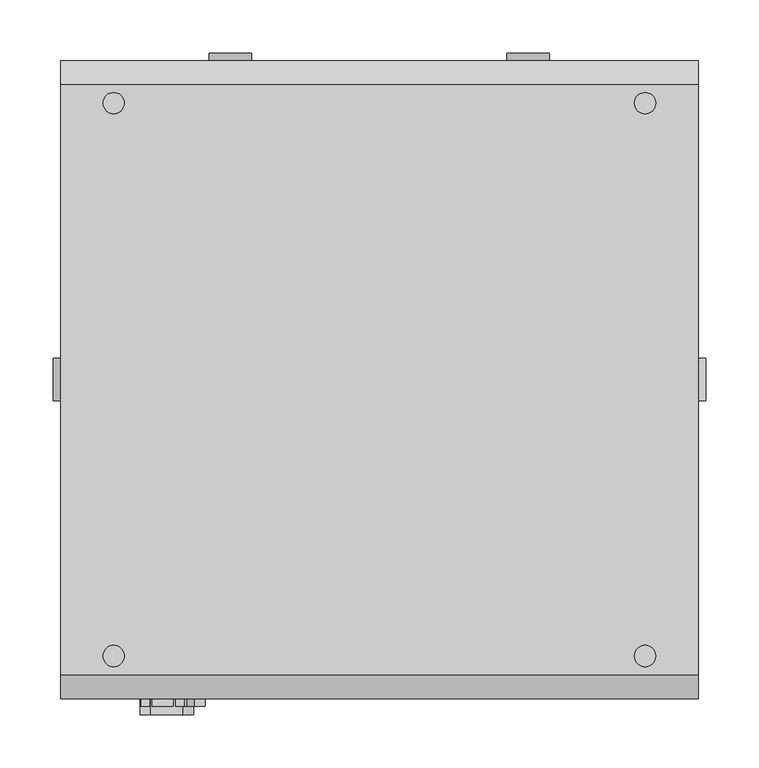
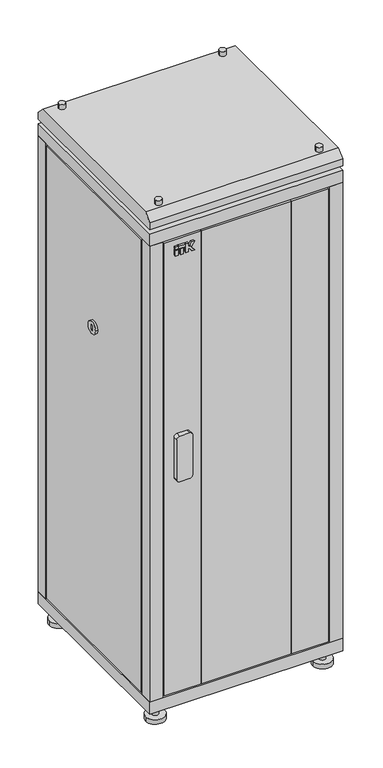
"""IFC4 building model written with IfcOpenShell, lengths in millimetres: proxy geometry, Шкафы ITK серия N_05 : LN05-33U66-G."""

import ifcopenshell
import ifcopenshell.guid

model = None  # the IFC model being written
_history = None  # IfcOwnerHistory: only IFC2X3 demands one
_inside = {}  # id of a spatial element -> (the spatial element, [elements in it])
_under = {}  # id of a project, library or spatial element -> (it, [spatial elements below it])
_declared = {}  # id of a project -> (the project, [libraries it declares])
_typed = {}  # id of a type object -> (the type object, [elements of that type])
_made_of = {}  # id of a material, layer set ... -> (it, [elements and type objects made of it])


def new_model(schema):
    """Start an empty IFC model of exactly this schema.

    Asked for "IFC4X3", IfcOpenShell would pick the latest addendum, in which some entities
    have other attributes; the version numbers below select the first issue.
    IFC2X3 requires an IfcOwnerHistory on every rooted entity: one is made here for all.
    """
    global model, _history
    if schema == "IFC4X3":
        model = ifcopenshell.file(schema_version=(4, 3, 0, 0))
    else:
        model = ifcopenshell.file(schema=schema)
    _inside.clear()
    _under.clear()
    _declared.clear()
    _typed.clear()
    _made_of.clear()
    _history = None
    if model.schema == "IFC2X3":
        org = make("IfcOrganization", Name="unknown")
        user = make(
            "IfcPersonAndOrganization",
            ThePerson=make("IfcPerson", FamilyName="unknown"),
            TheOrganization=org,
        )
        app = make(
            "IfcApplication",
            ApplicationDeveloper=org,
            Version="unknown",
            ApplicationFullName="unknown",
            ApplicationIdentifier="unknown",
        )
        _history = make(
            "IfcOwnerHistory",
            OwningUser=user,
            OwningApplication=app,
            ChangeAction="ADDED",
            CreationDate=0,
        )
    return model


def make(cls, **values):
    """One entity of the class cls with the attributes given. An attribute that is None is left unset."""
    return model.create_entity(
        cls, **{name: value for name, value in values.items() if value is not None}
    )


def rooted(cls, **values):
    """An entity with a GlobalId (a new one), such as an element, a storey or a relation."""
    return make(cls, GlobalId=ifcopenshell.guid.new(), OwnerHistory=_history, **values)


def si_unit(unit_type, name, prefix=None):
    """IfcSIUnit, for example si_unit("LENGTHUNIT", "METRE", prefix="MILLI")."""
    return make("IfcSIUnit", UnitType=unit_type, Prefix=prefix, Name=name)


def assignment(units):
    """IfcUnitAssignment: the units of a project."""
    return None if units is None else make("IfcUnitAssignment", Units=units)


def point(xyz):
    """IfcCartesianPoint."""
    return None if xyz is None else make("IfcCartesianPoint", Coordinates=xyz)


def direction(xyz):
    """IfcDirection."""
    return None if xyz is None else make("IfcDirection", DirectionRatios=xyz)


def frame(location, z_axis=None, x_axis=None):
    """IfcAxis2Placement3D, a coordinate frame: its origin and axes. An axis left out is left unset."""
    return make(
        "IfcAxis2Placement3D",
        Location=point(location),
        Axis=direction(z_axis),
        RefDirection=direction(x_axis),
    )


def frame_2d(location, x_axis=None):
    """IfcAxis2Placement2D, a coordinate frame in the plane: its origin and x axis."""
    return make(
        "IfcAxis2Placement2D", Location=point(location), RefDirection=direction(x_axis)
    )


def origin():
    """The frame at (0, 0, 0) with its axes left unset."""
    return frame((0.0, 0.0, 0.0))


def origin_with_axes():
    """The frame at (0, 0, 0) with the z axis (0, 0, 1) and the x axis (1, 0, 0) written out."""
    return frame((0.0, 0.0, 0.0), z_axis=(0.0, 0.0, 1.0), x_axis=(1.0, 0.0, 0.0))


def place(relative_to, where):
    """IfcLocalPlacement: puts the frame where relative to a parent placement (None: the world)."""
    return make(
        "IfcLocalPlacement", PlacementRelTo=relative_to, RelativePlacement=where
    )


def context(
    kind, dimensions, precision=None, world=None, true_north=None, identifier=None
):
    """IfcGeometricRepresentationContext, for example the 3D "Model" context."""
    return make(
        "IfcGeometricRepresentationContext",
        ContextIdentifier=identifier,
        ContextType=kind,
        CoordinateSpaceDimension=dimensions,
        Precision=precision,
        WorldCoordinateSystem=world,
        TrueNorth=true_north,
    )


def project(units=None, contexts=None):
    """IfcProject with its units and contexts."""
    return rooted(
        "IfcProject",
        Name="project",
        RepresentationContexts=contexts,
        UnitsInContext=assignment(units),
    )


def spatial(cls, under=None, at=None, **own):
    """A site, building, storey or space (cls), placed at a placement, below another one or the project."""
    s = rooted(cls, ObjectPlacement=at, **own)
    if under is not None:
        _under.setdefault(under.id(), (under, []))[1].append(s)
    return s


def polyline(points):
    """IfcPolyline through the points."""
    return make("IfcPolyline", Points=[point(p) for p in points])


def circle_curve(where, radius):
    """IfcCircle in the frame where."""
    return make("IfcCircle", Position=where, Radius=radius)


def trimmed(basis, trim1, trim2, sense, master):
    """IfcTrimmedCurve: the piece of a basis curve between two trims."""
    return make(
        "IfcTrimmedCurve",
        BasisCurve=basis,
        Trim1=trim1,
        Trim2=trim2,
        SenseAgreement=sense,
        MasterRepresentation=master,
    )


def segment(curve, same_sense, transition):
    """IfcCompositeCurveSegment."""
    return make(
        "IfcCompositeCurveSegment",
        Transition=transition,
        SameSense=same_sense,
        ParentCurve=curve,
    )


def composite_curve(segments, self_intersect=None):
    """IfcCompositeCurve: segments joined end to end."""
    return make("IfcCompositeCurve", Segments=segments, SelfIntersect=self_intersect)


def outline(outer, holes=None, kind="AREA"):
    """IfcArbitraryClosedProfileDef: a profile drawn as a closed curve; with holes, ...WithVoids."""
    if holes is None:
        return make("IfcArbitraryClosedProfileDef", ProfileType=kind, OuterCurve=outer)
    return make(
        "IfcArbitraryProfileDefWithVoids",
        ProfileType=kind,
        OuterCurve=outer,
        InnerCurves=holes,
    )


def extrude(swept, where, along, depth):
    """IfcExtrudedAreaSolid: the profile swept, set in the frame where, extruded along a direction by depth."""
    return make(
        "IfcExtrudedAreaSolid",
        SweptArea=swept,
        Position=where,
        ExtrudedDirection=direction(along),
        Depth=depth,
    )


def faces_of(points, faces, orient=None, outer=None):
    """IfcFace entities. A face is a list of loops; a loop is a list of indices into points, from 0.

    orient and outer hold one flag for each loop. By default every Orientation is true, the
    first loop of a face is its IfcFaceOuterBound and the others are IfcFaceBound.
    """
    made = []
    for i, loops in enumerate(faces):
        bounds = []
        for j, loop in enumerate(loops):
            is_outer = j == 0 if outer is None else outer[i][j]
            bounds.append(
                make(
                    "IfcFaceOuterBound" if is_outer else "IfcFaceBound",
                    Bound=make("IfcPolyLoop", Polygon=[points[k] for k in loop]),
                    Orientation=True if orient is None else orient[i][j],
                )
            )
        made.append(make("IfcFace", Bounds=bounds))
    return made


def faceted_brep(points, faces, orient=None, outer=None, voids=None):
    """IfcFacetedBrep: a solid bounded by flat faces; with voids (closed shells), ...WithVoids."""
    shared = [point(p) for p in points]
    hull = make("IfcClosedShell", CfsFaces=faces_of(shared, faces, orient, outer))
    if voids is None:
        return make("IfcFacetedBrep", Outer=hull)
    return make(
        "IfcFacetedBrepWithVoids",
        Outer=hull,
        Voids=[
            make(cls, CfsFaces=faces_of(shared, fs, o, b)) for cls, fs, o, b in voids
        ],
    )


def shape(context_of_items, identifier, shape_type, items):
    """IfcShapeRepresentation: the items that make up one representation, for example the "Body"."""
    return make(
        "IfcShapeRepresentation",
        ContextOfItems=context_of_items,
        RepresentationIdentifier=identifier,
        RepresentationType=shape_type,
        Items=items,
    )


def source(mapping_origin, context_of_items, identifier, shape_type, items):
    """IfcRepresentationMap: a shape defined once, which mapped items show again and again."""
    return make(
        "IfcRepresentationMap",
        MappingOrigin=mapping_origin,
        MappedRepresentation=shape(context_of_items, identifier, shape_type, items),
    )


def transform(
    local_origin,
    x_axis=None,
    y_axis=None,
    z_axis=None,
    scale=None,
    scale2=None,
    scale3=None,
    uniform=True,
):
    """IfcCartesianTransformationOperator3D, or its non-uniform kind. x_axis, y_axis, z_axis: its Axis1, 2, 3."""
    if uniform:
        return make(
            "IfcCartesianTransformationOperator3D",
            Axis1=direction(x_axis),
            Axis2=direction(y_axis),
            LocalOrigin=point(local_origin),
            Scale=scale,
            Axis3=direction(z_axis),
        )
    return make(
        "IfcCartesianTransformationOperator3DnonUniform",
        Axis1=direction(x_axis),
        Axis2=direction(y_axis),
        LocalOrigin=point(local_origin),
        Scale=scale,
        Axis3=direction(z_axis),
        Scale2=scale2,
        Scale3=scale3,
    )


def mapped(mapping_source, mapping_target):
    """IfcMappedItem: shows the shape of a source again, moved by a transform."""
    return make(
        "IfcMappedItem", MappingSource=mapping_source, MappingTarget=mapping_target
    )


def made_of(thing, what):
    """Note that an element or type object is made of a material, layer set ...; save() writes the relation."""
    if what is not None:
        _made_of.setdefault(what.id(), (what, []))[1].append(thing)
    return thing


def element(
    cls,
    number,
    at=None,
    inside=None,
    cuts=None,
    type_object=None,
    material=None,
    context=None,
    identifier="Body",
    shape_type=None,
    held_by="IfcProductDefinitionShape",
    body=None,
    shapes=None,
    **own,
):
    """One element of the class cls, such as IfcWall. Its Tag is "e" and its number.

    at: its placement. inside: the storey or other place that contains it. cuts: it is an
    opening in that element (IfcRelVoidsElement). A single representation is given by context,
    identifier, shape_type and body (its items); several are given by shapes. held_by: the class
    of the entity that holds the representations. save() writes the other relations.
    """
    e = rooted(cls, Tag="e%d" % number, ObjectPlacement=at, **own)
    if body is not None:
        shapes = [shape(context, identifier, shape_type, body)]
    if shapes is not None:
        e.Representation = make(held_by, Representations=shapes)
    if inside is not None:
        _inside.setdefault(inside.id(), (inside, []))[1].append(e)
    if cuts is not None:
        rooted(
            "IfcRelVoidsElement", RelatingBuildingElement=cuts, RelatedOpeningElement=e
        )
    if type_object is not None:
        _typed.setdefault(type_object.id(), (type_object, []))[1].append(e)
    return made_of(e, material)


def aggregate(whole, parts):
    """IfcRelAggregates: a whole, such as a stair, and the parts it consists of."""
    return rooted("IfcRelAggregates", RelatingObject=whole, RelatedObjects=parts)


def save(model, path):
    """Write the relations noted so far, then the file.

    IfcRelAggregates (storeys below a building ...), IfcRelContainedInSpatialStructure (elements
    in a storey), IfcRelDefinesByType, IfcRelAssociatesMaterial and IfcRelDeclares: one each for
    every whole, place, type object, material and project.
    """
    for whole, parts in _under.values():
        aggregate(whole, parts)
    for where, things in _inside.values():
        rooted(
            "IfcRelContainedInSpatialStructure",
            RelatedElements=things,
            RelatingStructure=where,
        )
    for kind, things in _typed.values():
        rooted("IfcRelDefinesByType", RelatedObjects=things, RelatingType=kind)
    for what, things in _made_of.values():
        rooted("IfcRelAssociatesMaterial", RelatedObjects=things, RelatingMaterial=what)
    for by, libraries in _declared.values():
        rooted("IfcRelDeclares", RelatingContext=by, RelatedDefinitions=libraries)
    model.write(path)


def plane_surface(at):
    """IfcPlane: the flat surface through the origin of the frame at, square to its z axis."""
    return make("IfcPlane", Position=at)


def cylinder_surface(at, radius):
    """IfcCylindricalSurface: all points at the distance radius from the z axis of the frame at."""
    return make("IfcCylindricalSurface", Position=at, Radius=radius)


def advanced_brep(points, edges, surfaces, faces):
    """IfcAdvancedBrep: a solid bounded by faces that lie on surfaces and meet in shared edges.

    An edge is (start, end): straight between two places in points (the first is 0);
    or (start, end, curve); or (start, end, curve, False) where it runs against its curve.
    A face is (place in surfaces, loops), or (place, loops, False) where it looks against
    its surface's normal. A loop lists edges by number (the first is 1), with a minus sign
    where the edge is run from its end to its start. The first loop is the outer one.
    """
    corners = [point(p) for p in points]
    vertices = [make("IfcVertexPoint", VertexGeometry=c) for c in corners]
    made = []
    for start, end, *more in edges:
        made.append(
            make(
                "IfcEdgeCurve",
                EdgeStart=vertices[start],
                EdgeEnd=vertices[end],
                EdgeGeometry=more[0] if more else make("IfcPolyline", Points=[corners[start], corners[end]]),
                SameSense=more[1] if len(more) > 1 else True,
            )
        )
    hull = []
    for where, loops, *sense in faces:
        bounds = []
        for j, loop in enumerate(loops):
            ring = [make("IfcOrientedEdge", EdgeElement=made[abs(k) - 1], Orientation=k > 0) for k in loop]
            bounds.append(
                make(
                    "IfcFaceOuterBound" if j == 0 else "IfcFaceBound",
                    Bound=make("IfcEdgeLoop", EdgeList=ring),
                    Orientation=True,
                )
            )
        hull.append(make("IfcAdvancedFace", Bounds=bounds, FaceSurface=surfaces[where], SameSense=sense[0] if sense else True))
    return make("IfcAdvancedBrep", Outer=make("IfcClosedShell", CfsFaces=hull))


def electrical_fixtures_de25d446(model_context):
    return source(origin(), model_context, "Body", "SolidModel", [
        extrude(outline(polyline([(-215.9746193, -307.0), (-224.197592, -307.0), (-224.197592, -300.0), (-215.9746193, -300.0), (-215.9746193, -307.0)])), frame((0.0, 0.0, 1535.0), z_axis=(0.0, 0.0, 1.0), x_axis=(1.0, 0.0, 0.0)), (0.0, 0.0, 1.0), 18.8087618),
        extrude(outline(polyline([(-199.9605777, -307.0), (-207.7053315, -307.0), (-207.7053315, -300.0), (-199.9605777, -300.0), (-199.9605777, -307.0)])), frame((0.0, 0.0, 1535.0), z_axis=(0.0, 0.0, 1.0), x_axis=(1.0, 0.0, 0.0)), (0.0, 0.0, 1.0), 18.8087618),
        extrude(outline(polyline([(-215.9746193, -307.0), (-224.197592, -307.0), (-224.197592, -300.0), (-215.9746193, -300.0), (-215.9746193, -307.0)])), frame((0.0, 0.0, 1556.4305892), z_axis=(0.0, 0.0, 1.0), x_axis=(1.0, 0.0, 0.0)), (0.0, 0.0, 1.0), 7.9794747),
        extrude(outline(polyline([(1535.0, -191.5184175), (1535.0, -183.7669278), (1546.0271455, -183.7669278), (1546.0271455, -180.8031229), (1535.0, -173.6420108), (1535.0, -164.197592), (1549.7278745, -174.8980192), (1564.410064, -164.197592), (1564.410064, -173.6420108), (1553.3829184, -180.8031229), (1553.3829184, -183.7669278), (1564.410064, -183.7669278), (1564.410064, -191.5184175), (1535.0, -191.5184175)])), frame((0.0, -307.0, 0.0), z_axis=(0.0, 1.0, 0.0), x_axis=(0.0, 0.0, 1.0)), (0.0, 0.0, 1.0), 7.0),
        extrude(outline(polyline([(-194.0851324, -307.0), (-213.5807768, -307.0), (-213.5807768, -300.0), (-194.0851324, -300.0), (-194.0851324, -307.0)])), frame((0.0, 0.0, 1556.4305892), z_axis=(0.0, 0.0, 1.0), x_axis=(1.0, 0.0, 0.0)), (0.0, 0.0, 1.0), 7.9794747),
        extrude(outline(composite_curve([segment(polyline([(945.0, -185.0), (945.0, -215.0)]), True, "CONTINUOUS"), segment(trimmed(circle_curve(frame_2d((935.0, -215.0)), 10.0), [point((945.0, -215.0))], [point((935.0, -225.0))], False, "CARTESIAN"), True, "CONTINUOUS"), segment(polyline([(935.0, -225.0), (805.0, -225.0)]), True, "CONTINUOUS"), segment(trimmed(circle_curve(frame_2d((805.0, -215.0)), 10.0), [point((805.0, -225.0))], [point((795.0, -215.0))], False, "CARTESIAN"), True, "CONTINUOUS"), segment(polyline([(795.0, -215.0), (795.0, -185.0)]), True, "CONTINUOUS"), segment(trimmed(circle_curve(frame_2d((805.0, -185.0)), 10.0), [point((795.0, -185.0))], [point((805.0, -175.0))], False, "CARTESIAN"), True, "CONTINUOUS"), segment(polyline([(805.0, -175.0), (935.0, -175.0)]), True, "CONTINUOUS"), segment(trimmed(circle_curve(frame_2d((935.0, -185.0)), 10.0), [point((935.0, -175.0))], [point((945.0, -185.0))], False, "CARTESIAN"), True, "CONTINUOUS")], self_intersect=False)), frame((0.0, -315.0, 0.0), z_axis=(0.0, 1.0, 0.0), x_axis=(0.0, 0.0, 1.0)), (0.0, 0.0, 1.0), 15.0),
        extrude(outline(polyline([(140.0, -280.0), (140.0, -300.0), (-140.0, -300.0), (-140.0, -280.0), (140.0, -280.0)])), frame((0.0, 0.0, 95.0), z_axis=(0.0, 0.0, 1.0), x_axis=(1.0, 0.0, 0.0)), (0.0, 0.0, 1.0), 1490.0),
        extrude(outline(polyline([(255.0, -280.0), (255.0, -300.0), (140.0, -300.0), (140.0, -280.0), (235.0, -280.0), (235.0, -265.0), (245.0, -265.0), (245.0, -280.0), (255.0, -280.0)])), frame((0.0, 0.0, 95.0), z_axis=(0.0, 0.0, 1.0), x_axis=(1.0, 0.0, 0.0)), (0.0, 0.0, 1.0), 1490.0),
        extrude(outline(polyline([(-140.0, -300.0), (-255.0, -300.0), (-255.0, -280.0), (-245.0, -280.0), (-245.0, -265.0), (-235.0, -265.0), (-235.0, -280.0), (-140.0, -280.0), (-140.0, -300.0)])), frame((0.0, 0.0, 95.0), z_axis=(0.0, 0.0, 1.0), x_axis=(1.0, 0.0, 0.0)), (0.0, 0.0, 1.0), 1490.0),
        extrude(outline(composite_curve([segment(trimmed(circle_curve(frame_2d((-260.0, 260.0)), 10.0), [point((-250.0, 260.0))], [point((-270.0, 260.0))], False, "CARTESIAN"), True, "CONTINUOUS"), segment(trimmed(circle_curve(frame_2d((-260.0, 260.0)), 10.0), [point((-270.0, 260.0))], [point((-250.0, 260.0))], False, "CARTESIAN"), True, "CONTINUOUS")], self_intersect=False)), frame((0.0, 0.0, 15.0), z_axis=(0.0, 0.0, 1.0), x_axis=(1.0, 0.0, 0.0)), (0.0, 0.0, 1.0), 35.0),
        extrude(outline(composite_curve([segment(trimmed(circle_curve(frame_2d((260.0, 260.0)), 10.0), [point((270.0, 260.0))], [point((250.0, 260.0))], False, "CARTESIAN"), True, "CONTINUOUS"), segment(trimmed(circle_curve(frame_2d((260.0, 260.0)), 10.0), [point((250.0, 260.0))], [point((270.0, 260.0))], False, "CARTESIAN"), True, "CONTINUOUS")], self_intersect=False)), frame((0.0, 0.0, 15.0), z_axis=(0.0, 0.0, 1.0), x_axis=(1.0, 0.0, 0.0)), (0.0, 0.0, 1.0), 35.0),
        extrude(outline(composite_curve([segment(trimmed(circle_curve(frame_2d((-260.0, -260.0)), 10.0), [point((-250.0, -260.0))], [point((-270.0, -260.0))], False, "CARTESIAN"), True, "CONTINUOUS"), segment(trimmed(circle_curve(frame_2d((-260.0, -260.0)), 10.0), [point((-270.0, -260.0))], [point((-250.0, -260.0))], False, "CARTESIAN"), True, "CONTINUOUS")], self_intersect=False)), frame((0.0, 0.0, 15.0), z_axis=(0.0, 0.0, 1.0), x_axis=(1.0, 0.0, 0.0)), (0.0, 0.0, 1.0), 35.0),
        extrude(outline(composite_curve([segment(trimmed(circle_curve(frame_2d((260.0, -260.0)), 10.0), [point((270.0, -260.0))], [point((250.0, -260.0))], False, "CARTESIAN"), True, "CONTINUOUS"), segment(trimmed(circle_curve(frame_2d((260.0, -260.0)), 10.0), [point((250.0, -260.0))], [point((270.0, -260.0))], False, "CARTESIAN"), True, "CONTINUOUS")], self_intersect=False)), frame((0.0, 0.0, 15.0), z_axis=(0.0, 0.0, 1.0), x_axis=(1.0, 0.0, 0.0)), (0.0, 0.0, 1.0), 35.0),
        extrude(outline(composite_curve([segment(trimmed(circle_curve(frame_2d((-260.0, 260.0)), 30.0), [point((-230.0, 260.0))], [point((-290.0, 260.0))], False, "CARTESIAN"), True, "CONTINUOUS"), segment(trimmed(circle_curve(frame_2d((-260.0, 260.0)), 30.0), [point((-290.0, 260.0))], [point((-230.0, 260.0))], False, "CARTESIAN"), True, "CONTINUOUS")], self_intersect=False)), origin_with_axes(), (0.0, 0.0, 1.0), 15.0),
        extrude(outline(composite_curve([segment(trimmed(circle_curve(frame_2d((260.0, 260.0)), 30.0), [point((290.0, 260.0))], [point((230.0, 260.0))], False, "CARTESIAN"), True, "CONTINUOUS"), segment(trimmed(circle_curve(frame_2d((260.0, 260.0)), 30.0), [point((230.0, 260.0))], [point((290.0, 260.0))], False, "CARTESIAN"), True, "CONTINUOUS")], self_intersect=False)), origin_with_axes(), (0.0, 0.0, 1.0), 15.0),
        extrude(outline(composite_curve([segment(trimmed(circle_curve(frame_2d((-260.0, -260.0)), 30.0), [point((-230.0, -260.0))], [point((-290.0, -260.0))], False, "CARTESIAN"), True, "CONTINUOUS"), segment(trimmed(circle_curve(frame_2d((-260.0, -260.0)), 30.0), [point((-290.0, -260.0))], [point((-230.0, -260.0))], False, "CARTESIAN"), True, "CONTINUOUS")], self_intersect=False)), origin_with_axes(), (0.0, 0.0, 1.0), 15.0),
        extrude(outline(composite_curve([segment(trimmed(circle_curve(frame_2d((260.0, -260.0)), 30.0), [point((290.0, -260.0))], [point((230.0, -260.0))], False, "CARTESIAN"), True, "CONTINUOUS"), segment(trimmed(circle_curve(frame_2d((260.0, -260.0)), 30.0), [point((230.0, -260.0))], [point((290.0, -260.0))], False, "CARTESIAN"), True, "CONTINUOUS")], self_intersect=False)), origin_with_axes(), (0.0, 0.0, 1.0), 15.0),
        advanced_brep(
        [(260.0, 260.0, 1705.0), (240.0, 260.0, 1705.0), (260.0, -260.0, 1705.0), (240.0, -260.0, 1705.0), (-240.0, 260.0, 1705.0), (-260.0, 260.0, 1705.0), (-240.0, -260.0, 1705.0), (-260.0, -260.0, 1705.0), (260.0, 260.0, 1630.0), (240.0, 260.0, 1630.0), (260.0, -260.0, 1630.0), (240.0, -260.0, 1630.0), (-240.0, 260.0, 1630.0), (-260.0, 260.0, 1630.0), (-240.0, -260.0, 1630.0), (-260.0, -260.0, 1630.0), (260.0, 260.0, 1690.0), (240.0, 260.0, 1690.0), (240.0, 260.0, 1645.0), (260.0, 260.0, 1645.0), (260.0, -260.0, 1690.0), (240.0, -260.0, 1690.0), (240.0, -260.0, 1645.0), (260.0, -260.0, 1645.0), (-240.0, 260.0, 1690.0), (-260.0, 260.0, 1690.0), (-260.0, 260.0, 1645.0), (-240.0, 260.0, 1645.0), (-240.0, -260.0, 1690.0), (-260.0, -260.0, 1690.0), (-260.0, -260.0, 1645.0), (-240.0, -260.0, 1645.0), (300.0, 277.5, 1690.0), (300.0, -277.5, 1690.0), (300.0, -300.0, 1667.5), (300.0, -300.0, 1645.0), (300.0, 300.0, 1645.0), (300.0, 300.0, 1667.5), (-300.0, 277.5, 1690.0), (-300.0, 300.0, 1667.5), (-300.0, 300.0, 1645.0), (-300.0, -300.0, 1645.0), (-300.0, -300.0, 1667.5), (-300.0, -277.5, 1690.0)],
        [
            (0, 1, circle_curve(frame((250.0, 260.0, 1705.0), z_axis=(0.0, 0.0, 1.0), x_axis=(-1.0, 0.0, 0.0)), 10.0)),
            (1, 0, circle_curve(frame((250.0, 260.0, 1705.0), z_axis=(0.0, 0.0, 1.0), x_axis=(-1.0, 0.0, 0.0)), 10.0)),
            (2, 3, circle_curve(frame((250.0, -260.0, 1705.0), z_axis=(0.0, 0.0, 1.0), x_axis=(-1.0, 0.0, 0.0)), 10.0)),
            (3, 2, circle_curve(frame((250.0, -260.0, 1705.0), z_axis=(0.0, 0.0, 1.0), x_axis=(-1.0, 0.0, 0.0)), 10.0)),
            (4, 5, circle_curve(frame((-250.0, 260.0, 1705.0), z_axis=(0.0, 0.0, 1.0), x_axis=(-1.0, 0.0, 0.0)), 10.0)),
            (5, 4, circle_curve(frame((-250.0, 260.0, 1705.0), z_axis=(0.0, 0.0, 1.0), x_axis=(-1.0, 0.0, 0.0)), 10.0)),
            (6, 7, circle_curve(frame((-250.0, -260.0, 1705.0), z_axis=(0.0, 0.0, 1.0), x_axis=(-1.0, 0.0, 0.0)), 10.0)),
            (7, 6, circle_curve(frame((-250.0, -260.0, 1705.0), z_axis=(0.0, 0.0, 1.0), x_axis=(-1.0, 0.0, 0.0)), 10.0)),
            (8, 9, circle_curve(frame((250.0, 260.0, 1630.0), z_axis=(0.0, 0.0, -1.0), x_axis=(-1.0, 0.0, 0.0)), 10.0)),
            (9, 8, circle_curve(frame((250.0, 260.0, 1630.0), z_axis=(0.0, 0.0, -1.0), x_axis=(-1.0, 0.0, 0.0)), 10.0)),
            (10, 11, circle_curve(frame((250.0, -260.0, 1630.0), z_axis=(0.0, 0.0, -1.0), x_axis=(-1.0, 0.0, 0.0)), 10.0)),
            (11, 10, circle_curve(frame((250.0, -260.0, 1630.0), z_axis=(0.0, 0.0, -1.0), x_axis=(-1.0, 0.0, 0.0)), 10.0)),
            (12, 13, circle_curve(frame((-250.0, 260.0, 1630.0), z_axis=(0.0, 0.0, -1.0), x_axis=(-1.0, 0.0, 0.0)), 10.0)),
            (13, 12, circle_curve(frame((-250.0, 260.0, 1630.0), z_axis=(0.0, 0.0, -1.0), x_axis=(-1.0, 0.0, 0.0)), 10.0)),
            (14, 15, circle_curve(frame((-250.0, -260.0, 1630.0), z_axis=(0.0, 0.0, -1.0), x_axis=(-1.0, 0.0, 0.0)), 10.0)),
            (15, 14, circle_curve(frame((-250.0, -260.0, 1630.0), z_axis=(0.0, 0.0, -1.0), x_axis=(-1.0, 0.0, 0.0)), 10.0)),
            (0, 16),
            (16, 17, circle_curve(frame((250.0, 260.0, 1690.0), z_axis=(0.0, 0.0, 1.0), x_axis=(-1.0, 0.0, 0.0)), 10.0)),
            (17, 1),
            (9, 18),
            (18, 19, circle_curve(frame((250.0, 260.0, 1645.0), z_axis=(0.0, 0.0, -1.0), x_axis=(-1.0, 0.0, 0.0)), 10.0)),
            (19, 8),
            (17, 16, circle_curve(frame((250.0, 260.0, 1690.0), z_axis=(0.0, 0.0, 1.0), x_axis=(-1.0, 0.0, 0.0)), 10.0)),
            (19, 18, circle_curve(frame((250.0, 260.0, 1645.0), z_axis=(0.0, 0.0, -1.0), x_axis=(-1.0, 0.0, 0.0)), 10.0)),
            (2, 20),
            (20, 21, circle_curve(frame((250.0, -260.0, 1690.0), z_axis=(0.0, 0.0, 1.0), x_axis=(-1.0, 0.0, 0.0)), 10.0)),
            (21, 3),
            (11, 22),
            (22, 23, circle_curve(frame((250.0, -260.0, 1645.0), z_axis=(0.0, 0.0, -1.0), x_axis=(-1.0, 0.0, 0.0)), 10.0)),
            (23, 10),
            (21, 20, circle_curve(frame((250.0, -260.0, 1690.0), z_axis=(0.0, 0.0, 1.0), x_axis=(-1.0, 0.0, 0.0)), 10.0)),
            (23, 22, circle_curve(frame((250.0, -260.0, 1645.0), z_axis=(0.0, 0.0, -1.0), x_axis=(-1.0, 0.0, 0.0)), 10.0)),
            (4, 24),
            (24, 25, circle_curve(frame((-250.0, 260.0, 1690.0), z_axis=(0.0, 0.0, 1.0), x_axis=(-1.0, 0.0, 0.0)), 10.0)),
            (25, 5),
            (13, 26),
            (26, 27, circle_curve(frame((-250.0, 260.0, 1645.0), z_axis=(0.0, 0.0, -1.0), x_axis=(-1.0, 0.0, 0.0)), 10.0)),
            (27, 12),
            (25, 24, circle_curve(frame((-250.0, 260.0, 1690.0), z_axis=(0.0, 0.0, 1.0), x_axis=(-1.0, 0.0, 0.0)), 10.0)),
            (27, 26, circle_curve(frame((-250.0, 260.0, 1645.0), z_axis=(0.0, 0.0, -1.0), x_axis=(-1.0, 0.0, 0.0)), 10.0)),
            (6, 28),
            (28, 29, circle_curve(frame((-250.0, -260.0, 1690.0), z_axis=(0.0, 0.0, 1.0), x_axis=(-1.0, 0.0, 0.0)), 10.0)),
            (29, 7),
            (15, 30),
            (30, 31, circle_curve(frame((-250.0, -260.0, 1645.0), z_axis=(0.0, 0.0, -1.0), x_axis=(-1.0, 0.0, 0.0)), 10.0)),
            (31, 14),
            (29, 28, circle_curve(frame((-250.0, -260.0, 1690.0), z_axis=(0.0, 0.0, 1.0), x_axis=(-1.0, 0.0, 0.0)), 10.0)),
            (31, 30, circle_curve(frame((-250.0, -260.0, 1645.0), z_axis=(0.0, 0.0, -1.0), x_axis=(-1.0, 0.0, 0.0)), 10.0)),
            (32, 33),
            (33, 34),
            (34, 35),
            (35, 36),
            (36, 37),
            (37, 32),
            (38, 39),
            (39, 40),
            (40, 41),
            (41, 42),
            (42, 43),
            (43, 38),
            (32, 38),
            (43, 33),
            (42, 34),
            (41, 35),
            (40, 36),
            (39, 37),
        ],
        [
            plane_surface(frame((240.0, 260.0, 1705.0), z_axis=(0.0, 0.0, 1.0), x_axis=(0.0, -1.0, 0.0))),
            plane_surface(frame((240.0, 260.0, 1630.0), z_axis=(0.0, 0.0, -1.0), x_axis=(0.0, 1.0, 0.0))),
            cylinder_surface(frame((250.0, 260.0, 1630.0), z_axis=(0.0, 0.0, 1.0), x_axis=(-1.0, 0.0, 0.0)), 10.0),
            cylinder_surface(frame((250.0, -260.0, 1710.0), z_axis=(0.0, 0.0, 1.0), x_axis=(-1.0, 0.0, 0.0)), 10.0),
            cylinder_surface(frame((-250.0, 260.0, 1710.0), z_axis=(0.0, 0.0, 1.0), x_axis=(-1.0, 0.0, 0.0)), 10.0),
            cylinder_surface(frame((-250.0, -260.0, 1710.0), z_axis=(0.0, 0.0, 1.0), x_axis=(-1.0, 0.0, 0.0)), 10.0),
            plane_surface(frame((300.0, -277.5, 1690.0), z_axis=(1.0, 0.0, 0.0), x_axis=(0.0, -1.0, 0.0))),
            plane_surface(frame((-300.0, -277.5, 1690.0), z_axis=(-1.0, 0.0, 0.0), x_axis=(0.0, 1.0, 0.0))),
            plane_surface(frame((300.0, 277.5, 1690.0), z_axis=(0.0, 0.0, 1.0), x_axis=(-1.0, 0.0, 0.0))),
            plane_surface(frame((300.0, -277.5, 1690.0), z_axis=(0.0, -0.7071067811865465, 0.7071067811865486), x_axis=(-1.0, 0.0, 0.0))),
            plane_surface(frame((300.0, -300.0, 1667.5), z_axis=(0.0, -1.0, 0.0), x_axis=(-1.0, 0.0, 0.0))),
            plane_surface(frame((300.0, -300.0, 1645.0), z_axis=(0.0, 0.0, -1.0), x_axis=(-1.0, 0.0, 0.0))),
            plane_surface(frame((300.0, 300.0, 1645.0), z_axis=(0.0, 1.0, 0.0), x_axis=(-1.0, 0.0, 0.0))),
            plane_surface(frame((300.0, 300.0, 1667.5), z_axis=(0.0, 0.7071067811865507, 0.7071067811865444), x_axis=(-1.0, 0.0, 0.0))),
        ],
        [
            (0, [[1, 2]]),
            (0, [[3, 4]]),
            (0, [[5, 6]]),
            (0, [[7, 8]]),
            (1, [[9, 10]]),
            (1, [[11, 12]]),
            (1, [[13, 14]]),
            (1, [[15, 16]]),
            (2, [[-1, 17, 18, 19]]),
            (2, [[-10, 20, 21, 22]]),
            (2, [[-2, -19, 23, -17]]),
            (2, [[-9, -22, 24, -20]]),
            (3, [[-3, 25, 26, 27]]),
            (3, [[-12, 28, 29, 30]]),
            (3, [[-4, -27, 31, -25]]),
            (3, [[-11, -30, 32, -28]]),
            (4, [[-5, 33, 34, 35]]),
            (4, [[-14, 36, 37, 38]]),
            (4, [[-6, -35, 39, -33]]),
            (4, [[-13, -38, 40, -36]]),
            (5, [[-7, 41, 42, 43]]),
            (5, [[-16, 44, 45, 46]]),
            (5, [[-8, -43, 47, -41]]),
            (5, [[-15, -46, 48, -44]]),
            (6, [[49, 50, 51, 52, 53, 54]]),
            (7, [[55, 56, 57, 58, 59, 60]]),
            (8, [[-49, 61, -60, 62], [-18, -23], [-26, -31], [-34, -39], [-42, -47]]),
            (9, [[-50, -62, -59, 63]]),
            (10, [[-51, -63, -58, 64]]),
            (11, [[-52, -64, -57, 65], [-21, -24], [-29, -32], [-37, -40], [-45, -48]]),
            (12, [[-53, -65, -56, 66]]),
            (13, [[-54, -66, -55, -61]]),
        ],
    ),
        extrude(outline(polyline([(260.0, 260.0), (260.0, 245.0), (290.0, 245.0), (290.0, -245.0), (260.0, -245.0), (260.0, -260.0), (245.0, -260.0), (245.0, -280.0), (-245.0, -280.0), (-245.0, -260.0), (-260.0, -260.0), (-260.0, -245.0), (-290.0, -245.0), (-290.0, 245.0), (-260.0, 245.0), (-260.0, 260.0), (-245.0, 260.0), (-245.0, 290.0), (245.0, 290.0), (245.0, 260.0), (260.0, 260.0)])), frame((0.0, 0.0, 90.0), z_axis=(0.0, 0.0, 1.0), x_axis=(1.0, 0.0, 0.0)), (0.0, 0.0, 1.0), 5.0),
        extrude(outline(polyline([(260.0, 260.0), (260.0, 245.0), (290.0, 245.0), (290.0, -245.0), (260.0, -245.0), (260.0, -260.0), (245.0, -260.0), (245.0, -280.0), (-245.0, -280.0), (-245.0, -260.0), (-260.0, -260.0), (-260.0, -245.0), (-290.0, -245.0), (-290.0, 245.0), (-260.0, 245.0), (-260.0, 260.0), (-245.0, 260.0), (-245.0, 290.0), (245.0, 290.0), (245.0, 260.0), (260.0, 260.0)])), frame((0.0, 0.0, 1585.0), z_axis=(0.0, 0.0, 1.0), x_axis=(1.0, 0.0, 0.0)), (0.0, 0.0, 1.0), 5.0),
        extrude(outline(polyline([(300.0, -300.0), (-300.0, -300.0), (-300.0, 300.0), (300.0, 300.0), (300.0, -300.0)])), frame((0.0, 0.0, 1590.0), z_axis=(0.0, 0.0, 1.0), x_axis=(1.0, 0.0, 0.0)), (0.0, 0.0, 1.0), 40.0),
        extrude(outline(polyline([(300.0, -300.0), (-300.0, -300.0), (-300.0, 300.0), (300.0, 300.0), (300.0, -300.0)])), frame((0.0, 0.0, 50.0), z_axis=(0.0, 0.0, 1.0), x_axis=(1.0, 0.0, 0.0)), (0.0, 0.0, 1.0), 40.0),
        extrude(outline(composite_curve([segment(trimmed(circle_curve(frame_2d((840.0, 140.0)), 20.0), [point((840.0, 160.0))], [point((840.0, 120.0))], False, "CARTESIAN"), True, "CONTINUOUS"), segment(trimmed(circle_curve(frame_2d((840.0, 140.0)), 20.0), [point((840.0, 120.0))], [point((840.0, 160.0))], False, "CARTESIAN"), True, "CONTINUOUS")], self_intersect=False), holes=[polyline([(831.7814397, 137.0), (848.2185603, 137.0), (848.2185603, 143.0), (831.7814397, 143.0), (831.7814397, 137.0)])]), frame((0.0, 300.0, 0.0), z_axis=(0.0, 1.0, 0.0), x_axis=(0.0, 0.0, 1.0)), (0.0, 0.0, 1.0), 7.0),
        extrude(outline(composite_curve([segment(trimmed(circle_curve(frame_2d((840.0, -140.0)), 20.0), [point((840.0, -120.0))], [point((840.0, -160.0))], False, "CARTESIAN"), True, "CONTINUOUS"), segment(trimmed(circle_curve(frame_2d((840.0, -140.0)), 20.0), [point((840.0, -160.0))], [point((840.0, -120.0))], False, "CARTESIAN"), True, "CONTINUOUS")], self_intersect=False), holes=[polyline([(831.7814397, -143.0), (848.2185603, -143.0), (848.2185603, -137.0), (831.7814397, -137.0), (831.7814397, -143.0)])]), frame((0.0, 300.0, 0.0), z_axis=(0.0, 1.0, 0.0), x_axis=(0.0, 0.0, 1.0)), (0.0, 0.0, 1.0), 7.0),
        faceted_brep([(255.0, 300.0, 1585.0), (-255.0, 300.0, 1585.0), (-255.0, 270.0, 1585.0), (-245.0, 270.0, 1585.0), (-245.0, 290.0, 1585.0), (245.0, 290.0, 1585.0), (245.0, 270.0, 1585.0), (255.0, 270.0, 1585.0), (255.0, 300.0, 95.0), (255.0, 270.0, 95.0), (245.0, 270.0, 95.0), (245.0, 290.0, 95.0), (-245.0, 290.0, 95.0), (-245.0, 270.0, 95.0), (-255.0, 270.0, 95.0), (-255.0, 300.0, 95.0), (255.0, 300.0, 1412.5265979), (-255.0, 300.0, 1412.5265979), (175.0, 300.0, 1460.0), (175.0, 300.0, 1540.0), (-175.0, 300.0, 1540.0), (-175.0, 300.0, 1460.0), (-255.0, 300.0, 267.4734021), (255.0, 300.0, 267.4734021), (175.0, 300.0, 220.0), (-175.0, 300.0, 220.0), (-175.0, 300.0, 140.0), (175.0, 300.0, 140.0), (255.0, 300.0, 1407.4734021), (255.0, 300.0, 272.5265979), (-255.0, 300.0, 272.5265979), (-255.0, 300.0, 1407.4734021), (-170.0, 300.0, 215.0), (170.0, 300.0, 215.0), (170.0, 300.0, 145.0), (-170.0, 300.0, 145.0), (-170.0, 300.0, 1465.0), (-170.0, 300.0, 1535.0), (170.0, 300.0, 1535.0), (170.0, 300.0, 1465.0), (-255.0, 293.0, 1412.5265979), (-255.0, 293.0, 1407.4734021), (-255.0, 293.0, 272.5265979), (-255.0, 293.0, 267.4734021), (255.0, 293.0, 267.4734021), (255.0, 293.0, 272.5265979), (255.0, 293.0, 1407.4734021), (255.0, 293.0, 1412.5265979), (175.0, 293.0, 220.0), (175.0, 293.0, 140.0), (-175.0, 293.0, 140.0), (-175.0, 293.0, 220.0), (-170.0, 293.0, 215.0), (-170.0, 293.0, 145.0), (170.0, 293.0, 145.0), (170.0, 293.0, 215.0), (175.0, 293.0, 1460.0), (-175.0, 293.0, 1460.0), (-175.0, 293.0, 1540.0), (175.0, 293.0, 1540.0), (-170.0, 293.0, 1465.0), (170.0, 293.0, 1465.0), (170.0, 293.0, 1535.0), (-170.0, 293.0, 1535.0)], [[[0, 1, 2, 3, 4, 5, 6, 7]], [[8, 9, 10, 11, 12, 13, 14, 15]], [[1, 0, 16, 17], [18, 19, 20, 21]], [[8, 15, 22, 23], [24, 25, 26, 27]], [[28, 29, 30, 31]], [[32, 33, 34, 35]], [[36, 37, 38, 39]], [[2, 1, 17, 40, 41, 31, 30, 42, 43, 22, 15, 14]], [[3, 2, 14, 13]], [[4, 3, 13, 12]], [[5, 4, 12, 11]], [[6, 5, 11, 10]], [[7, 6, 10, 9]], [[0, 7, 9, 8, 23, 44, 45, 29, 28, 46, 47, 16]], [[44, 43, 42, 45]], [[48, 49, 50, 51], [52, 53, 54, 55]], [[46, 41, 40, 47]], [[56, 57, 58, 59], [60, 61, 62, 63]], [[45, 42, 30, 29]], [[43, 44, 23, 22]], [[48, 51, 25, 24]], [[51, 50, 26, 25]], [[50, 49, 27, 26]], [[49, 48, 24, 27]], [[52, 55, 33, 32]], [[55, 54, 34, 33]], [[54, 53, 35, 34]], [[53, 52, 32, 35]], [[47, 40, 17, 16]], [[41, 46, 28, 31]], [[56, 59, 19, 18]], [[59, 58, 20, 19]], [[58, 57, 21, 20]], [[57, 56, 18, 21]], [[60, 63, 37, 36]], [[63, 62, 38, 37]], [[62, 61, 39, 38]], [[61, 60, 36, 39]]]),
        extrude(outline(composite_curve([segment(trimmed(circle_curve(frame_2d((0.0, 1143.3333333)), 20.0), [point((-20.0, 1143.3333333))], [point((20.0, 1143.3333333))], False, "CARTESIAN"), True, "CONTINUOUS"), segment(trimmed(circle_curve(frame_2d((0.0, 1143.3333333)), 20.0), [point((20.0, 1143.3333333))], [point((-20.0, 1143.3333333))], False, "CARTESIAN"), True, "CONTINUOUS")], self_intersect=False), holes=[polyline([(3.0, 1135.114773), (3.0, 1151.5518937), (-3.0, 1151.5518937), (-3.0, 1135.114773), (3.0, 1135.114773)])]), frame((300.0, 0.0, 0.0), z_axis=(1.0, 0.0, 0.0), x_axis=(0.0, 1.0, 0.0)), (0.0, 0.0, 1.0), 7.0),
        extrude(outline(composite_curve([segment(trimmed(circle_curve(frame_2d((0.0, 1143.3333333)), 20.0), [point((20.0, 1143.3333333))], [point((-20.0, 1143.3333333))], False, "CARTESIAN"), True, "CONTINUOUS"), segment(trimmed(circle_curve(frame_2d((0.0, 1143.3333333)), 20.0), [point((-20.0, 1143.3333333))], [point((20.0, 1143.3333333))], False, "CARTESIAN"), True, "CONTINUOUS")], self_intersect=False), holes=[polyline([(-3.0, 1135.114773), (3.0, 1135.114773), (3.0, 1151.5518937), (-3.0, 1151.5518937), (-3.0, 1135.114773)])]), frame((-307.0, 0.0, 0.0), z_axis=(1.0, 0.0, 0.0), x_axis=(0.0, 1.0, 0.0)), (0.0, 0.0, 1.0), 7.0),
        extrude(outline(polyline([(-270.0, 255.0), (-270.0, 245.0), (-289.9803177, 245.0), (-289.9803177, -245.0), (-269.9803177, -245.0), (-269.9803177, -255.0), (-300.0, -255.0), (-300.0, 255.0), (-270.0, 255.0)])), frame((0.0, 0.0, 95.0), z_axis=(0.0, 0.0, 1.0), x_axis=(1.0, 0.0, 0.0)), (0.0, 0.0, 1.0), 1490.0),
        extrude(outline(polyline([(269.9803177, 255.0), (300.0, 255.0), (300.0, -255.0), (269.9803177, -255.0), (269.9803177, -245.0), (289.9803177, -245.0), (289.9803177, 245.0), (269.9803177, 245.0), (269.9803177, 255.0)])), frame((0.0, 0.0, 95.0), z_axis=(0.0, 0.0, 1.0), x_axis=(1.0, 0.0, 0.0)), (0.0, 0.0, 1.0), 1490.0),
        extrude(outline(polyline([(-270.0, -260.0), (-270.0, -245.0), (-260.0, -245.0), (-260.0, -260.0), (-245.0, -260.0), (-245.0, -280.0), (-260.0, -280.0), (-260.0, -300.0), (-300.0, -300.0), (-300.0, -260.0), (-270.0, -260.0)]), holes=[polyline([(-267.0, -263.0), (-297.0, -263.0), (-297.0, -297.0), (-263.0, -297.0), (-263.0, -277.0), (-248.0, -277.0), (-248.0, -263.0), (-263.0, -263.0), (-263.0, -248.0), (-267.0, -248.0), (-267.0, -263.0)])]), frame((0.0, 0.0, 90.0), z_axis=(0.0, 0.0, 1.0), x_axis=(1.0, 0.0, 0.0)), (0.0, 0.0, 1.0), 1500.0),
        extrude(outline(polyline([(270.0, -260.0), (300.0, -260.0), (300.0, -300.0), (260.0, -300.0), (260.0, -280.0), (245.0, -280.0), (245.0, -260.0), (260.0, -260.0), (260.0, -245.0), (270.0, -245.0), (270.0, -260.0)]), holes=[polyline([(297.0, -297.0), (297.0, -263.0), (267.0, -263.0), (267.0, -248.0), (263.0, -248.0), (263.0, -263.0), (248.0, -263.0), (248.0, -277.0), (263.0, -277.0), (263.0, -297.0), (297.0, -297.0)])]), frame((0.0, 0.0, 90.0), z_axis=(0.0, 0.0, 1.0), x_axis=(1.0, 0.0, 0.0)), (0.0, 0.0, 1.0), 1500.0),
        extrude(outline(polyline([(270.0, 260.0), (270.0, 245.0), (260.0, 245.0), (260.0, 260.0), (245.0, 260.0), (245.0, 270.0), (260.0, 270.0), (260.0, 300.0), (300.0, 300.0), (300.0, 260.0), (270.0, 260.0)]), holes=[polyline([(297.0, 263.0), (297.0, 297.0), (263.0, 297.0), (263.0, 267.0), (248.0, 267.0), (248.0, 263.0), (263.0, 263.0), (263.0, 248.0), (267.0, 248.0), (267.0, 263.0), (297.0, 263.0)])]), frame((0.0, 0.0, 90.0), z_axis=(0.0, 0.0, 1.0), x_axis=(1.0, 0.0, 0.0)), (0.0, 0.0, 1.0), 1500.0),
        extrude(outline(polyline([(-270.0, 260.0), (-300.0, 260.0), (-300.0, 300.0), (-260.0, 300.0), (-260.0, 270.0), (-245.0, 270.0), (-245.0, 260.0), (-260.0, 260.0), (-260.0, 245.0), (-270.0, 245.0), (-270.0, 260.0)]), holes=[polyline([(-297.0, 297.0), (-297.0, 263.0), (-267.0, 263.0), (-267.0, 248.0), (-263.0, 248.0), (-263.0, 263.0), (-248.0, 263.0), (-248.0, 267.0), (-263.0, 267.0), (-263.0, 297.0), (-297.0, 297.0)])]), frame((0.0, 0.0, 90.0), z_axis=(0.0, 0.0, 1.0), x_axis=(1.0, 0.0, 0.0)), (0.0, 0.0, 1.0), 1500.0),
    ])


if __name__ == "__main__":
    model = new_model("IFC4")
    model_context = context("Model", 3, world=origin())
    ifc_project = project(units=[si_unit("LENGTHUNIT", "METRE", prefix="MILLI")], contexts=[model_context])
    site = spatial("IfcSite", under=ifc_project)
    building = spatial("IfcBuilding", under=site)
    placement = place(None, origin())
    electrical_fixtures_shape = electrical_fixtures_de25d446(model_context)
    element("IfcBuildingElementProxy", 1, Name="Шкафы ITK серия N_05 : LN05-33U66-G", ObjectType="Шкафы ITK серия N_05 : LN05-33U66-G", at=placement, inside=building, context=model_context, shape_type="MappedRepresentation", body=[
        mapped(electrical_fixtures_shape, transform((0.0, 0.0, 0.0), x_axis=(1.0, 0.0, 0.0), y_axis=(0.0, 1.0, 0.0), z_axis=(0.0, 0.0, 1.0))),
    ])
    save(model, "model.ifc")
